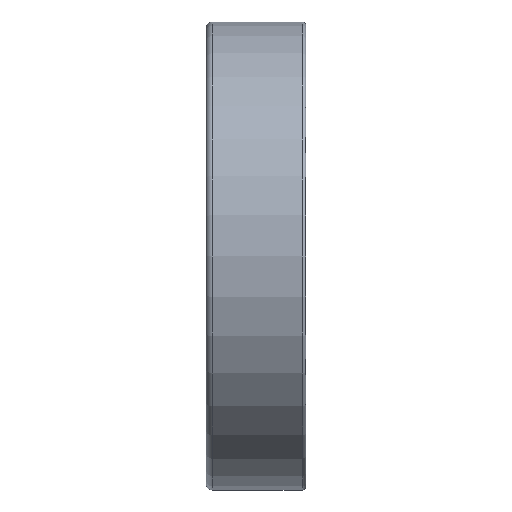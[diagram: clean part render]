
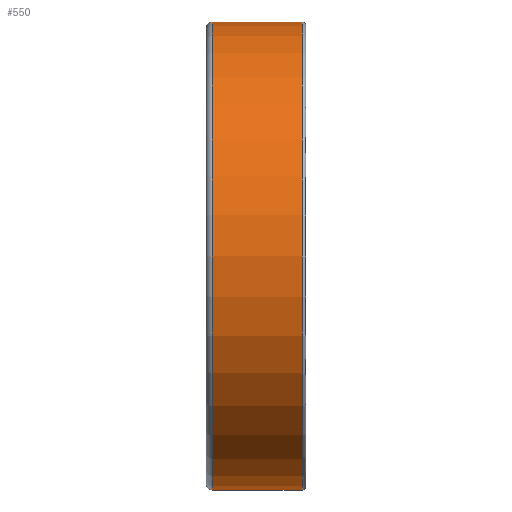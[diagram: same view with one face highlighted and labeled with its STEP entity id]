
A CAD part, front view. The second image highlights one B-rep face of the part: STEP entity #550.
In plain terms, the highlighted cylindrical face has radius 37.5 mm (diameter 75 mm), a full revolution.
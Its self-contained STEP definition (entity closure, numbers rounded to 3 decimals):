
#167=CYLINDRICAL_SURFACE('',#862,37.5);
#267=EDGE_LOOP('',(#379));
#268=EDGE_LOOP('',(#380));
#379=ORIENTED_EDGE('',*,*,#443,.F.);
#380=ORIENTED_EDGE('',*,*,#441,.T.);
#441=EDGE_CURVE('',#789,#789,#461,.T.);
#443=EDGE_CURVE('',#791,#791,#463,.T.);
#461=CIRCLE('',#858,37.5);
#463=CIRCLE('',#861,37.5);
#550=ADVANCED_FACE('',(#691,#692),#167,.T.);
#691=FACE_BOUND('',#267,.T.);
#692=FACE_BOUND('',#268,.T.);
#789=VERTEX_POINT('',#1794);
#791=VERTEX_POINT('',#1799);
#858=AXIS2_PLACEMENT_3D('',#1793,#986,#987);
#861=AXIS2_PLACEMENT_3D('',#1798,#992,#993);
#862=AXIS2_PLACEMENT_3D('',#1800,#994,#995);
#986=DIRECTION('',(1.,0.,0.));
#987=DIRECTION('',(0.,0.,-1.));
#992=DIRECTION('',(1.,0.,0.));
#993=DIRECTION('',(0.,0.,-1.));
#994=DIRECTION('',(1.,0.,0.));
#995=DIRECTION('',(0.,0.,-1.));
#1793=CARTESIAN_POINT('',(-7.,0.,0.));
#1794=CARTESIAN_POINT('',(-7.,0.,-37.5));
#1798=CARTESIAN_POINT('',(7.4,0.,0.));
#1799=CARTESIAN_POINT('',(7.4,0.,-37.5));
#1800=CARTESIAN_POINT('',(-7.,0.,0.));
